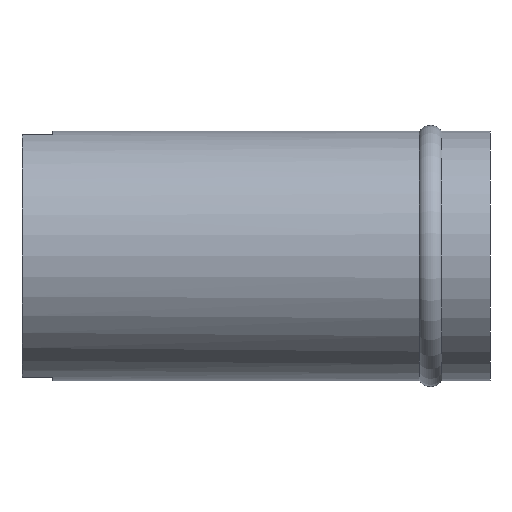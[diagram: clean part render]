
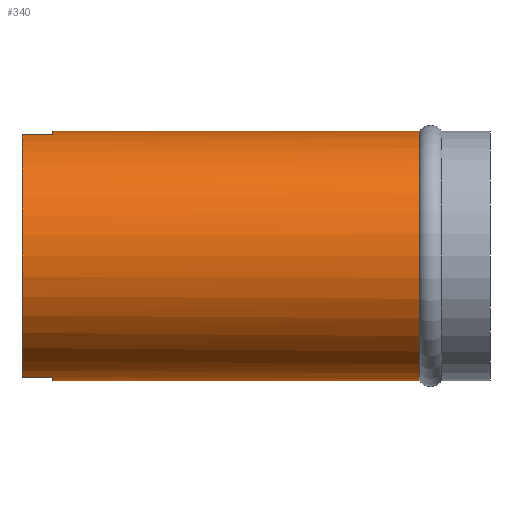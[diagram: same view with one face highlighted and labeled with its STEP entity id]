
A CAD part, front view. The second image highlights one B-rep face of the part: STEP entity #340.
In plain terms, the highlighted cylindrical face has radius 4 mm (diameter 8 mm), a partial arc.
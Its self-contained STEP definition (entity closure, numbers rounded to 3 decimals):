
#1 = AXIS2_PLACEMENT_3D ( 'NONE', #286, #291, #354 ) ;
#5 = VECTOR ( 'NONE', #194, 1000. ) ;
#6 = CARTESIAN_POINT ( 'NONE',  ( 0., 0., -4. ) ) ;
#8 = DIRECTION ( 'NONE',  ( 0., 0., -1. ) ) ;
#11 = DIRECTION ( 'NONE',  ( 1., 0., 0. ) ) ;
#14 = CARTESIAN_POINT ( 'NONE',  ( 0.974, 0., 0. ) ) ;
#19 = VERTEX_POINT ( 'NONE', #269 ) ;
#20 = CARTESIAN_POINT ( 'NONE',  ( 0.974, -0.964, -3.882 ) ) ;
#23 = VERTEX_POINT ( 'NONE', #274 ) ;
#40 = CARTESIAN_POINT ( 'NONE',  ( 12.739, 0., 0. ) ) ;
#48 = EDGE_LOOP ( 'NONE', ( #107, #320, #376, #321, #126, #296, #80, #276 ) ) ;
#51 = VERTEX_POINT ( 'NONE', #169 ) ;
#55 = VECTOR ( 'NONE', #265, 1000. ) ;
#70 = DIRECTION ( 'NONE',  ( -1., 0., 0. ) ) ;
#80 = ORIENTED_EDGE ( 'NONE', *, *, #312, .T. ) ;
#83 = DIRECTION ( 'NONE',  ( 0., 0., 1. ) ) ;
#85 = CARTESIAN_POINT ( 'NONE',  ( 0., -0.964, 3.882 ) ) ;
#89 = AXIS2_PLACEMENT_3D ( 'NONE', #40, #70, #83 ) ;
#91 = CYLINDRICAL_SURFACE ( 'NONE', #156, 4. ) ;
#95 = LINE ( 'NONE', #199, #55 ) ;
#98 = DIRECTION ( 'NONE',  ( -1., 0., 0. ) ) ;
#103 = EDGE_CURVE ( 'NONE', #51, #372, #218, .T. ) ;
#105 = VERTEX_POINT ( 'NONE', #85 ) ;
#107 = ORIENTED_EDGE ( 'NONE', *, *, #212, .F. ) ;
#112 = FACE_OUTER_BOUND ( 'NONE', #48, .T. ) ;
#114 = CIRCLE ( 'NONE', #175, 4. ) ;
#126 = ORIENTED_EDGE ( 'NONE', *, *, #299, .T. ) ;
#151 = CIRCLE ( 'NONE', #339, 4. ) ;
#156 = AXIS2_PLACEMENT_3D ( 'NONE', #329, #205, #314 ) ;
#169 = CARTESIAN_POINT ( 'NONE',  ( 12.739, 0., 4. ) ) ;
#171 = CARTESIAN_POINT ( 'NONE',  ( 0., -0.964, 3.882 ) ) ;
#175 = AXIS2_PLACEMENT_3D ( 'NONE', #288, #365, #337 ) ;
#178 = EDGE_CURVE ( 'NONE', #372, #350, #151, .T. ) ;
#180 = EDGE_CURVE ( 'NONE', #23, #51, #224, .T. ) ;
#187 = LINE ( 'NONE', #171, #278 ) ;
#190 = VERTEX_POINT ( 'NONE', #20 ) ;
#194 = DIRECTION ( 'NONE',  ( -1., 0., 0. ) ) ;
#199 = CARTESIAN_POINT ( 'NONE',  ( 0., -0.964, -3.882 ) ) ;
#200 = LINE ( 'NONE', #6, #207 ) ;
#205 = DIRECTION ( 'NONE',  ( -1., 0., 0. ) ) ;
#206 = DIRECTION ( 'NONE',  ( -1., 0., 0. ) ) ;
#207 = VECTOR ( 'NONE', #98, 1000. ) ;
#212 = EDGE_CURVE ( 'NONE', #23, #289, #200, .T. ) ;
#216 = CARTESIAN_POINT ( 'NONE',  ( 0., 0., 4. ) ) ;
#218 = LINE ( 'NONE', #216, #5 ) ;
#224 = CIRCLE ( 'NONE', #89, 4. ) ;
#246 = EDGE_CURVE ( 'NONE', #19, #105, #114, .T. ) ;
#265 = DIRECTION ( 'NONE',  ( 1., 0., 0. ) ) ;
#269 = CARTESIAN_POINT ( 'NONE',  ( 0., -0.964, -3.882 ) ) ;
#274 = CARTESIAN_POINT ( 'NONE',  ( 12.739, 0., -4. ) ) ;
#276 = ORIENTED_EDGE ( 'NONE', *, *, #283, .T. ) ;
#278 = VECTOR ( 'NONE', #206, 1000. ) ;
#283 = EDGE_CURVE ( 'NONE', #190, #289, #292, .T. ) ;
#286 = CARTESIAN_POINT ( 'NONE',  ( 0.974, 0., 0. ) ) ;
#288 = CARTESIAN_POINT ( 'NONE',  ( 0., 0., 0. ) ) ;
#289 = VERTEX_POINT ( 'NONE', #375 ) ;
#291 = DIRECTION ( 'NONE',  ( 1., 0., 0. ) ) ;
#292 = CIRCLE ( 'NONE', #1, 4. ) ;
#296 = ORIENTED_EDGE ( 'NONE', *, *, #246, .F. ) ;
#299 = EDGE_CURVE ( 'NONE', #350, #105, #187, .T. ) ;
#309 = CARTESIAN_POINT ( 'NONE',  ( 0.974, -0.964, 3.882 ) ) ;
#312 = EDGE_CURVE ( 'NONE', #19, #190, #95, .T. ) ;
#314 = DIRECTION ( 'NONE',  ( 0., 0., 1. ) ) ;
#320 = ORIENTED_EDGE ( 'NONE', *, *, #180, .T. ) ;
#321 = ORIENTED_EDGE ( 'NONE', *, *, #178, .T. ) ;
#329 = CARTESIAN_POINT ( 'NONE',  ( 0., 0., 0. ) ) ;
#333 = CARTESIAN_POINT ( 'NONE',  ( 0.974, 0., 4. ) ) ;
#337 = DIRECTION ( 'NONE',  ( 0., 0., 1. ) ) ;
#339 = AXIS2_PLACEMENT_3D ( 'NONE', #14, #11, #8 ) ;
#340 = ADVANCED_FACE ( 'NONE', ( #112 ), #91, .T. ) ;
#350 = VERTEX_POINT ( 'NONE', #309 ) ;
#354 = DIRECTION ( 'NONE',  ( 0., 0., -1. ) ) ;
#365 = DIRECTION ( 'NONE',  ( -1., 0., 0. ) ) ;
#372 = VERTEX_POINT ( 'NONE', #333 ) ;
#375 = CARTESIAN_POINT ( 'NONE',  ( 0.974, 0., -4. ) ) ;
#376 = ORIENTED_EDGE ( 'NONE', *, *, #103, .T. ) ;
